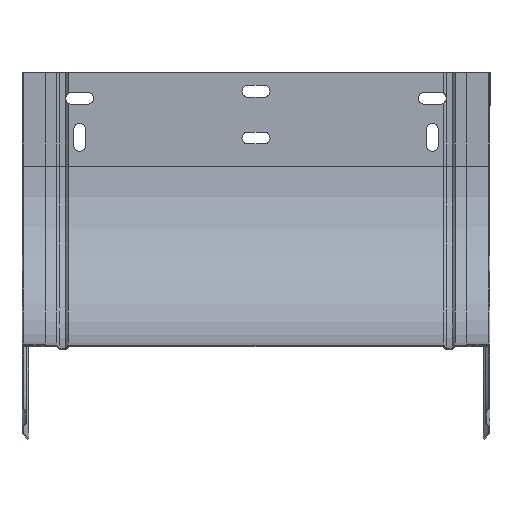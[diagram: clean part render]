
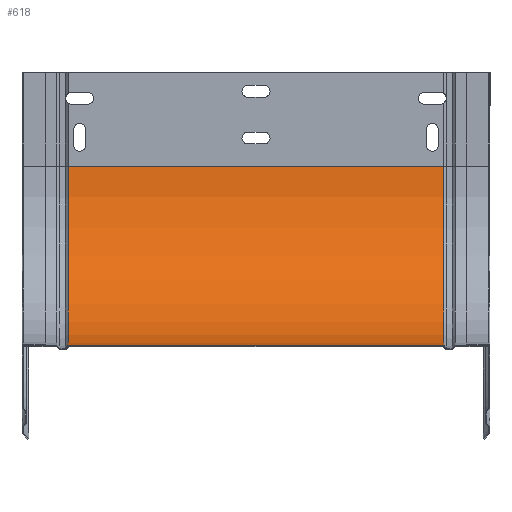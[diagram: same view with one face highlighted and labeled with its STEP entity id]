
A CAD part, front view. The second image highlights one B-rep face of the part: STEP entity #618.
In plain terms, the highlighted cylindrical face has radius 115 mm (diameter 230 mm), a partial arc.
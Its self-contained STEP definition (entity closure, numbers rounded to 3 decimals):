
#151 = AXIS2_PLACEMENT_3D ( 'NONE', #881, #2692, #5910 ) ;
#288 = VECTOR ( 'NONE', #4083, 1000. ) ;
#385 = AXIS2_PLACEMENT_3D ( 'NONE', #619, #3824, #2550 ) ;
#618 = ADVANCED_FACE ( 'NONE', ( #1826 ), #5456, .F. ) ;
#619 = CARTESIAN_POINT ( 'NONE',  ( -120.331, -115., -60. ) ) ;
#881 = CARTESIAN_POINT ( 'NONE',  ( 0., -115., -60. ) ) ;
#1123 = ORIENTED_EDGE ( 'NONE', *, *, #3516, .F. ) ;
#1214 = ORIENTED_EDGE ( 'NONE', *, *, #5815, .F. ) ;
#1403 = CIRCLE ( 'NONE', #1865, 115. ) ;
#1408 = ORIENTED_EDGE ( 'NONE', *, *, #4175, .T. ) ;
#1450 = DIRECTION ( 'NONE',  ( 0., 0., 1. ) ) ;
#1766 = CARTESIAN_POINT ( 'NONE',  ( -120.331, 0., -60. ) ) ;
#1797 = VERTEX_POINT ( 'NONE', #3019 ) ;
#1826 = FACE_OUTER_BOUND ( 'NONE', #2222, .T. ) ;
#1830 = DIRECTION ( 'NONE',  ( 1., 0., 0. ) ) ;
#1865 = AXIS2_PLACEMENT_3D ( 'NONE', #3753, #5158, #1450 ) ;
#2046 = ORIENTED_EDGE ( 'NONE', *, *, #5593, .T. ) ;
#2222 = EDGE_LOOP ( 'NONE', ( #1214, #2046, #1408, #1123 ) ) ;
#2550 = DIRECTION ( 'NONE',  ( 0., 0., 1. ) ) ;
#2692 = DIRECTION ( 'NONE',  ( -1., 0., 0. ) ) ;
#2756 = CARTESIAN_POINT ( 'NONE',  ( 120.331, -115., -175. ) ) ;
#3019 = CARTESIAN_POINT ( 'NONE',  ( -120.331, -115., -175. ) ) ;
#3156 = LINE ( 'NONE', #4982, #288 ) ;
#3475 = CARTESIAN_POINT ( 'NONE',  ( -120.331, -115., -175. ) ) ;
#3516 = EDGE_CURVE ( 'NONE', #4044, #4331, #1403, .T. ) ;
#3753 = CARTESIAN_POINT ( 'NONE',  ( 120.331, -115., -60. ) ) ;
#3824 = DIRECTION ( 'NONE',  ( -1., 0., 0. ) ) ;
#4044 = VERTEX_POINT ( 'NONE', #4722 ) ;
#4083 = DIRECTION ( 'NONE',  ( 1., 0., 0. ) ) ;
#4175 = EDGE_CURVE ( 'NONE', #1797, #4331, #5917, .T. ) ;
#4331 = VERTEX_POINT ( 'NONE', #2756 ) ;
#4577 = CIRCLE ( 'NONE', #385, 115. ) ;
#4722 = CARTESIAN_POINT ( 'NONE',  ( 120.331, 0., -60. ) ) ;
#4982 = CARTESIAN_POINT ( 'NONE',  ( -120.331, 0., -60. ) ) ;
#5038 = VECTOR ( 'NONE', #1830, 1000. ) ;
#5158 = DIRECTION ( 'NONE',  ( -1., 0., 0. ) ) ;
#5456 = CYLINDRICAL_SURFACE ( 'NONE', #151, 115. ) ;
#5593 = EDGE_CURVE ( 'NONE', #5750, #1797, #4577, .T. ) ;
#5750 = VERTEX_POINT ( 'NONE', #1766 ) ;
#5815 = EDGE_CURVE ( 'NONE', #5750, #4044, #3156, .T. ) ;
#5910 = DIRECTION ( 'NONE',  ( 0., 0., 1. ) ) ;
#5917 = LINE ( 'NONE', #3475, #5038 ) ;
